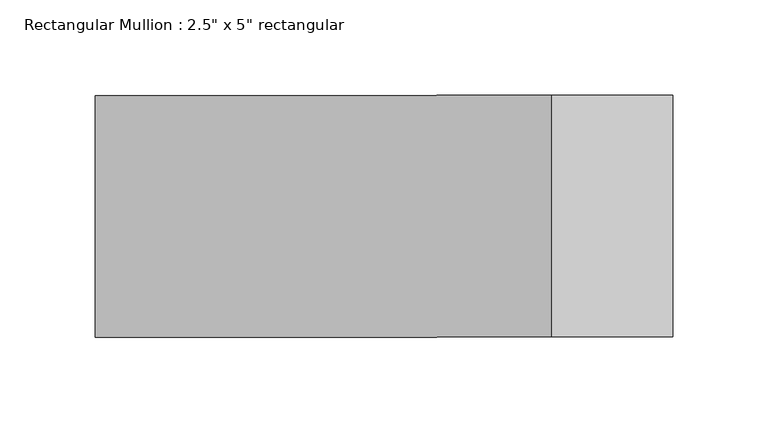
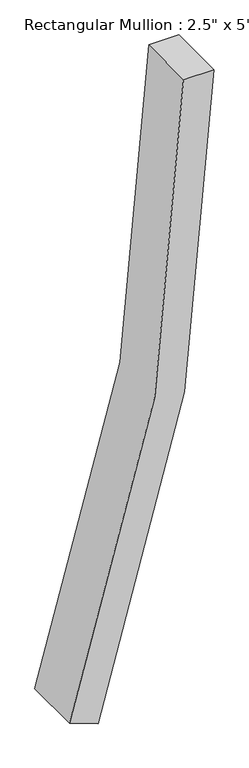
"""IFC4 building model written with IfcOpenShell, lengths in millimetres: member geometry."""

from ifc_helpers import new_model, si_unit, point, frame, frame_2d, origin, place, context, project, spatial, polyline, circle_curve, trimmed, segment, composite_curve, outline, extrude, source, transform, mapped, element, save


def member_f6015b47(model_context):
    return source(origin(), model_context, "Body", "SweptSolid", [
        extrude(outline(composite_curve([segment(trimmed(circle_curve(frame_2d((0.0, -3962.4)), 3962.4), [point((-1368.7130828, -243.9005369))], [point((0.0, 0.0))], False, "CARTESIAN"), True, "CONTINUOUS"), segment(polyline([(0.0, 0.0), (0.0, -63.5)]), True, "CONTINUOUS"), segment(trimmed(circle_curve(frame_2d((0.0, -3962.4)), 3898.9), [point((0.0, -63.5))], [point((-1346.7785783, -303.4918745))], True, "CARTESIAN"), True, "CONTINUOUS"), segment(polyline([(-1346.7785783, -303.4918745), (-1368.7130828, -243.9005369)]), True, "CONTINUOUS")], self_intersect=False)), frame((0.0, -63.5, 0.0), z_axis=(0.0, 1.0, 0.0), x_axis=(0.0, 0.0, 1.0)), (0.0, 0.0, 1.0), 127.0),
    ])


if __name__ == "__main__":
    model = new_model("IFC4")
    model_context = context("Model", 3, world=origin())
    ifc_project = project(units=[si_unit("LENGTHUNIT", "METRE", prefix="MILLI")], contexts=[model_context])
    site = spatial("IfcSite", under=ifc_project)
    building = spatial("IfcBuilding", under=site)
    placement = place(None, origin())
    member_shape = member_f6015b47(model_context)
    element("IfcMember", 1, ObjectType="Rectangular Mullion : 2.5\" x 5\" rectangular", at=placement, inside=building, context=model_context, shape_type="MappedRepresentation", body=[
        mapped(member_shape, transform((0.0, 0.0, 0.0), x_axis=(1.0, 0.0, 0.0), y_axis=(0.0, 1.0, 0.0), z_axis=(0.0, 0.0, 1.0))),
    ])
    save(model, "model.ifc")
